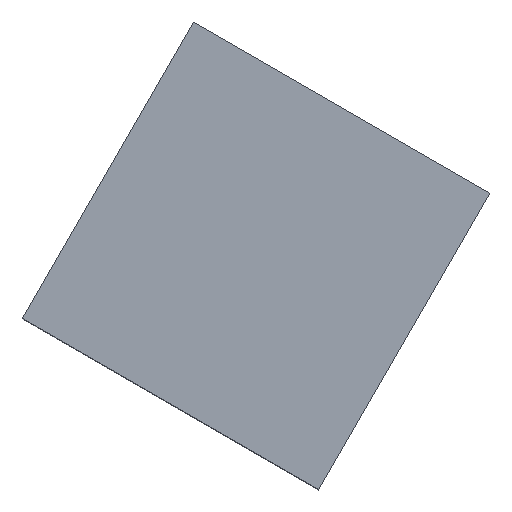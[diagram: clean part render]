
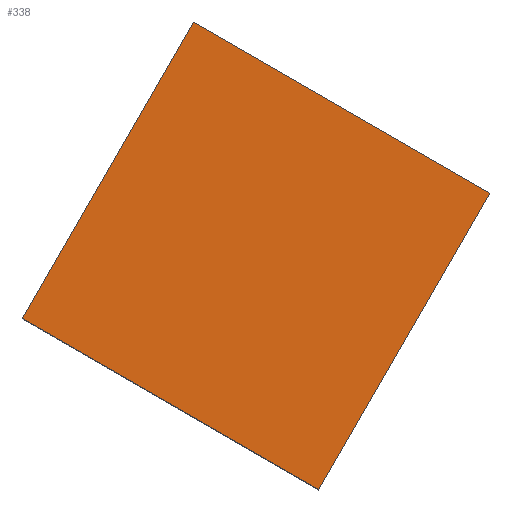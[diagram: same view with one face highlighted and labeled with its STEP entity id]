
A CAD part, top view. The second image highlights one B-rep face of the part: STEP entity #338.
In plain terms, the highlighted planar face has unit normal (0, 0, 1).
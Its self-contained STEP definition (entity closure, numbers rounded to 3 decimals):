
#24 = VERTEX_POINT('',#25);
#25 = CARTESIAN_POINT('',(249.107,-163.051,19.2));
#32 = PLANE('',#33);
#33 = AXIS2_PLACEMENT_3D('',#34,#35,#36);
#34 = CARTESIAN_POINT('',(249.107,-163.051,7.6));
#35 = DIRECTION('',(0.5,0.866,0.));
#36 = DIRECTION('',(0.866,-0.5,0.));
#44 = PLANE('',#45);
#45 = AXIS2_PLACEMENT_3D('',#46,#47,#48);
#46 = CARTESIAN_POINT('',(256.107,-150.927,7.6));
#47 = DIRECTION('',(0.866,-0.5,0.));
#48 = DIRECTION('',(-0.5,-0.866,0.));
#56 = EDGE_CURVE('',#24,#57,#59,.T.);
#57 = VERTEX_POINT('',#58);
#58 = CARTESIAN_POINT('',(261.231,-170.051,19.2));
#59 = SURFACE_CURVE('',#60,(#64,#71),.PCURVE_S1.);
#60 = LINE('',#61,#62);
#61 = CARTESIAN_POINT('',(249.107,-163.051,19.2));
#62 = VECTOR('',#63,1.);
#63 = DIRECTION('',(0.866,-0.5,0.));
#64 = PCURVE('',#32,#65);
#65 = DEFINITIONAL_REPRESENTATION('',(#66),#70);
#66 = LINE('',#67,#68);
#67 = CARTESIAN_POINT('',(0.,-11.6));
#68 = VECTOR('',#69,1.);
#69 = DIRECTION('',(1.,0.));
#70 = ( GEOMETRIC_REPRESENTATION_CONTEXT(2) 
PARAMETRIC_REPRESENTATION_CONTEXT() REPRESENTATION_CONTEXT('2D SPACE',''
  ) );
#71 = PCURVE('',#72,#77);
#72 = PLANE('',#73);
#73 = AXIS2_PLACEMENT_3D('',#74,#75,#76);
#74 = CARTESIAN_POINT('',(258.669,-160.489,19.2));
#75 = DIRECTION('',(0.,0.,1.));
#76 = DIRECTION('',(0.866,-0.5,0.));
#77 = DEFINITIONAL_REPRESENTATION('',(#78),#82);
#78 = LINE('',#79,#80);
#79 = CARTESIAN_POINT('',(-7.,-7.));
#80 = VECTOR('',#81,1.);
#81 = DIRECTION('',(1.,0.));
#82 = ( GEOMETRIC_REPRESENTATION_CONTEXT(2) 
PARAMETRIC_REPRESENTATION_CONTEXT() REPRESENTATION_CONTEXT('2D SPACE',''
  ) );
#100 = PLANE('',#101);
#101 = AXIS2_PLACEMENT_3D('',#102,#103,#104);
#102 = CARTESIAN_POINT('',(261.231,-170.051,7.6));
#103 = DIRECTION('',(-0.866,0.5,0.));
#104 = DIRECTION('',(0.5,0.866,0.));
#142 = EDGE_CURVE('',#57,#143,#145,.T.);
#143 = VERTEX_POINT('',#144);
#144 = CARTESIAN_POINT('',(268.231,-157.927,19.2));
#145 = SURFACE_CURVE('',#146,(#150,#157),.PCURVE_S1.);
#146 = LINE('',#147,#148);
#147 = CARTESIAN_POINT('',(261.231,-170.051,19.2));
#148 = VECTOR('',#149,1.);
#149 = DIRECTION('',(0.5,0.866,0.));
#150 = PCURVE('',#100,#151);
#151 = DEFINITIONAL_REPRESENTATION('',(#152),#156);
#152 = LINE('',#153,#154);
#153 = CARTESIAN_POINT('',(0.,-11.6));
#154 = VECTOR('',#155,1.);
#155 = DIRECTION('',(1.,0.));
#156 = ( GEOMETRIC_REPRESENTATION_CONTEXT(2) 
PARAMETRIC_REPRESENTATION_CONTEXT() REPRESENTATION_CONTEXT('2D SPACE',''
  ) );
#157 = PCURVE('',#72,#158);
#158 = DEFINITIONAL_REPRESENTATION('',(#159),#163);
#159 = LINE('',#160,#161);
#160 = CARTESIAN_POINT('',(7.,-7.));
#161 = VECTOR('',#162,1.);
#162 = DIRECTION('',(0.,1.));
#163 = ( GEOMETRIC_REPRESENTATION_CONTEXT(2) 
PARAMETRIC_REPRESENTATION_CONTEXT() REPRESENTATION_CONTEXT('2D SPACE',''
  ) );
#181 = PLANE('',#182);
#182 = AXIS2_PLACEMENT_3D('',#183,#184,#185);
#183 = CARTESIAN_POINT('',(268.231,-157.927,7.6));
#184 = DIRECTION('',(-0.5,-0.866,0.));
#185 = DIRECTION('',(-0.866,0.5,0.));
#218 = EDGE_CURVE('',#143,#219,#221,.T.);
#219 = VERTEX_POINT('',#220);
#220 = CARTESIAN_POINT('',(256.107,-150.927,19.2));
#221 = SURFACE_CURVE('',#222,(#226,#233),.PCURVE_S1.);
#222 = LINE('',#223,#224);
#223 = CARTESIAN_POINT('',(268.231,-157.927,19.2));
#224 = VECTOR('',#225,1.);
#225 = DIRECTION('',(-0.866,0.5,0.));
#226 = PCURVE('',#181,#227);
#227 = DEFINITIONAL_REPRESENTATION('',(#228),#232);
#228 = LINE('',#229,#230);
#229 = CARTESIAN_POINT('',(0.,-11.6));
#230 = VECTOR('',#231,1.);
#231 = DIRECTION('',(1.,0.));
#232 = ( GEOMETRIC_REPRESENTATION_CONTEXT(2) 
PARAMETRIC_REPRESENTATION_CONTEXT() REPRESENTATION_CONTEXT('2D SPACE',''
  ) );
#233 = PCURVE('',#72,#234);
#234 = DEFINITIONAL_REPRESENTATION('',(#235),#239);
#235 = LINE('',#236,#237);
#236 = CARTESIAN_POINT('',(7.,7.));
#237 = VECTOR('',#238,1.);
#238 = DIRECTION('',(-1.,0.));
#239 = ( GEOMETRIC_REPRESENTATION_CONTEXT(2) 
PARAMETRIC_REPRESENTATION_CONTEXT() REPRESENTATION_CONTEXT('2D SPACE',''
  ) );
#289 = EDGE_CURVE('',#219,#24,#290,.T.);
#290 = SURFACE_CURVE('',#291,(#295,#302),.PCURVE_S1.);
#291 = LINE('',#292,#293);
#292 = CARTESIAN_POINT('',(256.107,-150.927,19.2));
#293 = VECTOR('',#294,1.);
#294 = DIRECTION('',(-0.5,-0.866,0.));
#295 = PCURVE('',#44,#296);
#296 = DEFINITIONAL_REPRESENTATION('',(#297),#301);
#297 = LINE('',#298,#299);
#298 = CARTESIAN_POINT('',(0.,-11.6));
#299 = VECTOR('',#300,1.);
#300 = DIRECTION('',(1.,-0.));
#301 = ( GEOMETRIC_REPRESENTATION_CONTEXT(2) 
PARAMETRIC_REPRESENTATION_CONTEXT() REPRESENTATION_CONTEXT('2D SPACE',''
  ) );
#302 = PCURVE('',#72,#303);
#303 = DEFINITIONAL_REPRESENTATION('',(#304),#308);
#304 = LINE('',#305,#306);
#305 = CARTESIAN_POINT('',(-7.,7.));
#306 = VECTOR('',#307,1.);
#307 = DIRECTION('',(0.,-1.));
#308 = ( GEOMETRIC_REPRESENTATION_CONTEXT(2) 
PARAMETRIC_REPRESENTATION_CONTEXT() REPRESENTATION_CONTEXT('2D SPACE',''
  ) );
#338 = ADVANCED_FACE('',(#339),#72,.T.);
#339 = FACE_BOUND('',#340,.T.);
#340 = EDGE_LOOP('',(#341,#342,#343,#344));
#341 = ORIENTED_EDGE('',*,*,#56,.T.);
#342 = ORIENTED_EDGE('',*,*,#142,.T.);
#343 = ORIENTED_EDGE('',*,*,#218,.T.);
#344 = ORIENTED_EDGE('',*,*,#289,.T.);
